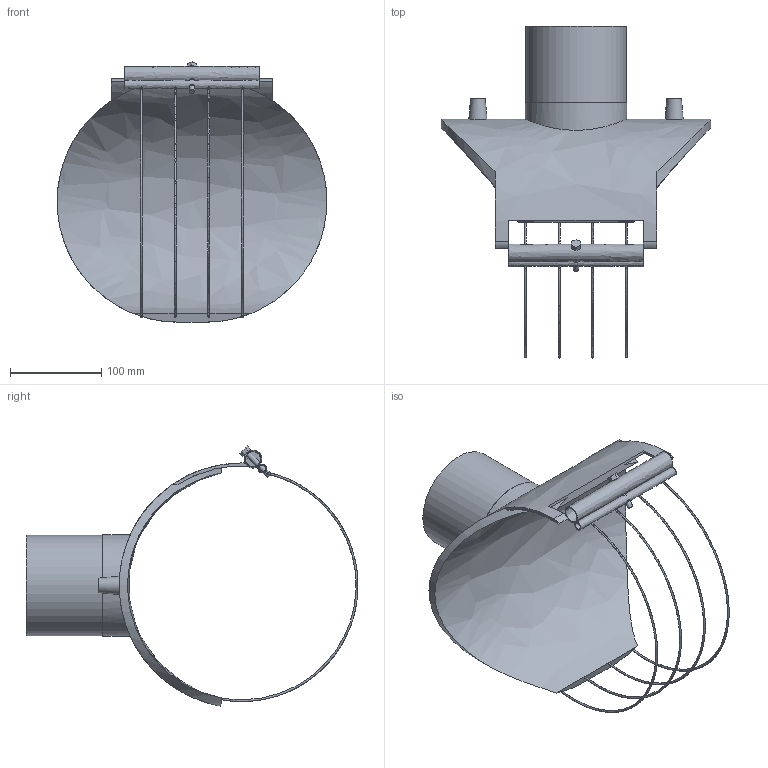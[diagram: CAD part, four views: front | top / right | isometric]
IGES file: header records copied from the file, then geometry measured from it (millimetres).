
Global section: file name: 4958X4250110T; native system: Autodesk Inventor 2021; preprocessor: unknown; author: KIM; date: 20250507.121544; units: millimetre
Bounding box: 295 x 363 x 284.56 mm (x, y, z)
Volume: 1130811.5 mm3; surface area: 290179.3 mm2
Topology: 1 solids, 1 shells, 62 faces, 187 edges, 126 vertices
Faces by surface type: bspline 62
